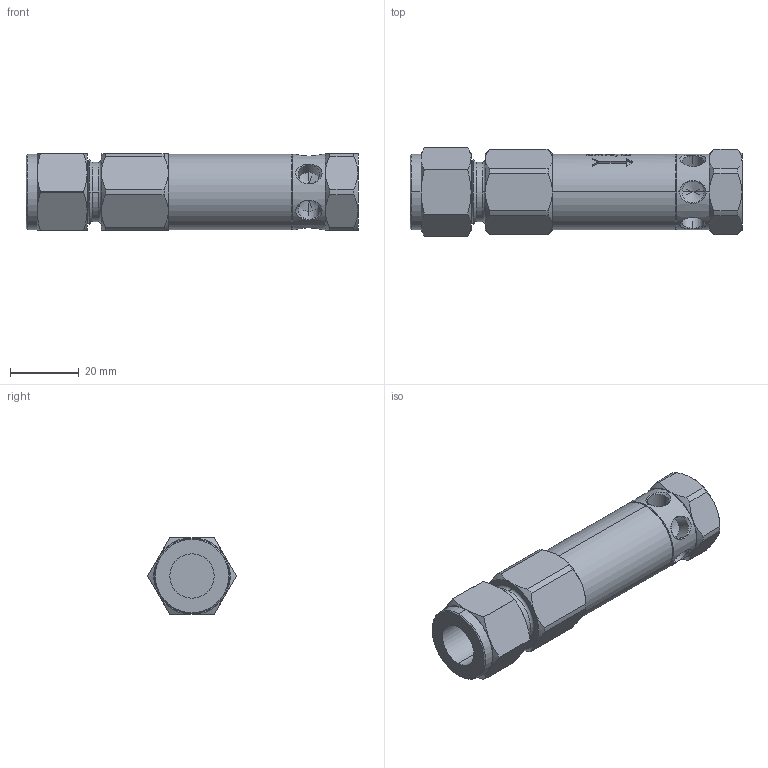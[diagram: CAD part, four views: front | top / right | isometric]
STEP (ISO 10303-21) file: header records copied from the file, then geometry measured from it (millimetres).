
FILE_DESCRIPTION (( 'STEP AP203' ), '1' );
FILE_NAME ('IRVD-8T.STEP', '2020-08-13T13:12:40', ( '' ), ( '' ), 'SwSTEP 2.0', 'SolidWorks 2020', '' );
FILE_SCHEMA (( 'CONFIG_CONTROL_DESIGN' ));
Length unit declared in the file: inch
Products named in the file (2): IRVD-8T; Part3^IRVD-8T
Assembly tree (1 placements, depth 2):
  IRVD-8T
    Part3^IRVD-8T
Bounding box: 96.24 x 25.65 x 22.23 mm (x, y, z)
Volume: 35312.4 mm3; surface area: 9194.6 mm2
Topology: 1 solids, 1 shells, 366 faces, 930 edges, 588 vertices
Faces by surface type: plane 157, cone 70, bspline 70, cylinder 67, torus 2
Entity records: 16273 total; most frequent: CARTESIAN_POINT 7939, ORIENTED_EDGE 1836, DIRECTION 1454, EDGE_CURVE 918, VERTEX_POINT 588, AXIS2_PLACEMENT_3D 558, EDGE_LOOP 400, FACE_OUTER_BOUND 366
